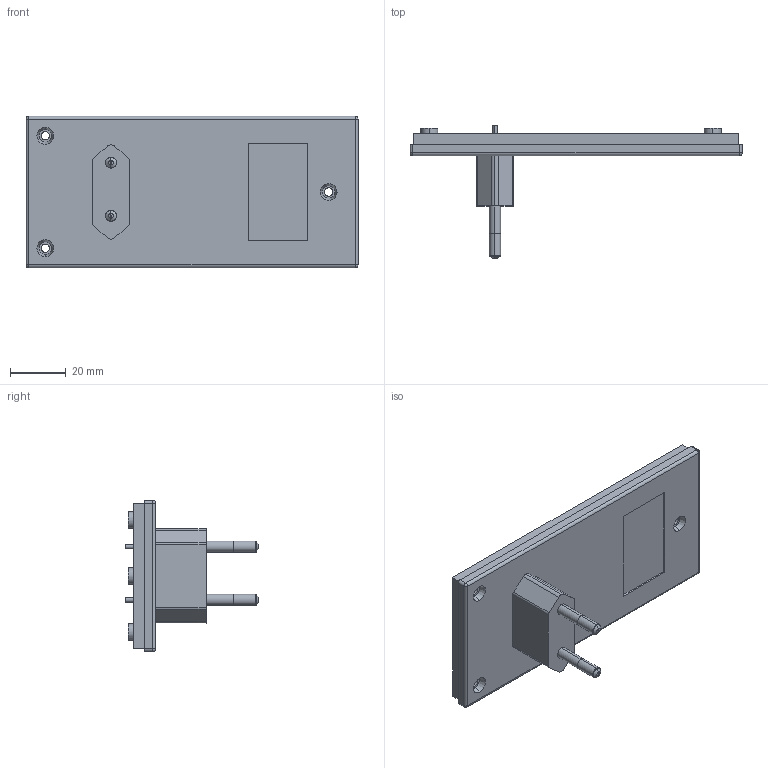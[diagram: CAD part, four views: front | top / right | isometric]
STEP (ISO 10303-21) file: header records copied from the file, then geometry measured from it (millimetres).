
FILE_DESCRIPTION (( 'STEP AP214' ), '1' );
FILE_NAME ('Tapa PP54.STEP', '2019-11-07T13:33:08', ( 'aaa' ), ( '' ), 'SwSTEP 2.0', 'SolidWorks 2014', '' );
FILE_SCHEMA (( 'AUTOMOTIVE_DESIGN' ));
Length unit declared in the file: millimetre
Products named in the file (1): Tapa PP54
Bounding box: 118.75 x 47.85 x 54.2 mm (x, y, z)
Volume: 21989.2 mm3; surface area: 22092.3 mm2
Topology: 3 solids, 3 shells, 160 faces, 349 edges, 222 vertices
Faces by surface type: cylinder 71, plane 67, cone 10, torus 8, sphere 4
Entity records: 4796 total; most frequent: DIRECTION 841, CARTESIAN_POINT 728, ORIENTED_EDGE 690, EDGE_CURVE 345, AXIS2_PLACEMENT_3D 335, VERTEX_POINT 222, EDGE_LOOP 197, CIRCLE 174
